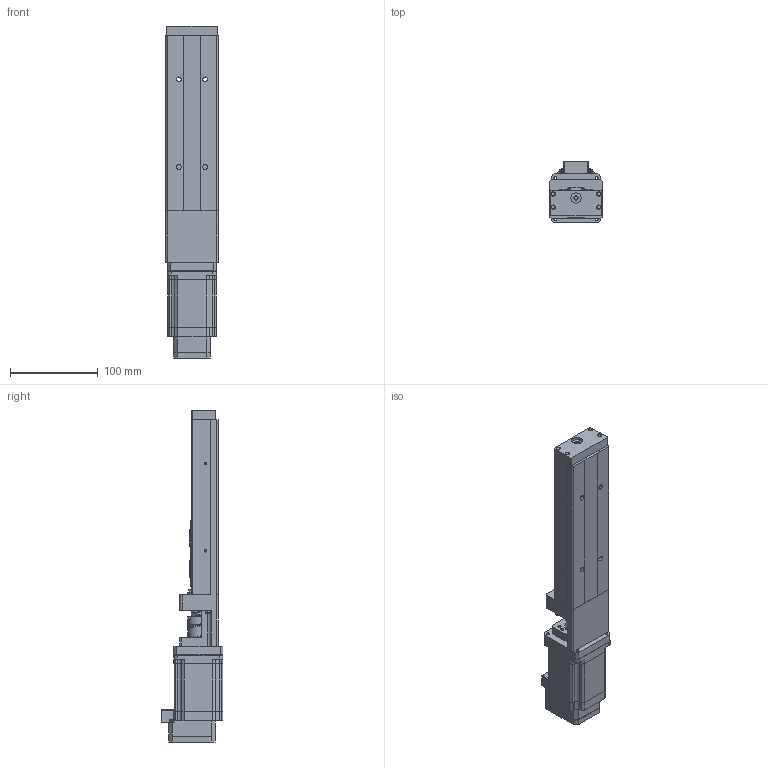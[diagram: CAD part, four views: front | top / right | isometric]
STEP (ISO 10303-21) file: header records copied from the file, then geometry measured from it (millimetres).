
FILE_DESCRIPTION (( 'STEP AP214' ), '1' );
FILE_NAME ('PA33-A-06-100-S-00A0-23L20-X.STEP', '2015-01-06T14:52:41', ( '' ), ( '' ), 'SwSTEP 2.0', 'SolidWorks 2015', '' );
FILE_SCHEMA (( 'AUTOMOTIVE_DESIGN' ));
Length unit declared in the file: millimetre
Products named in the file (5): CM1-X-23L20-NE-RENDER; PA33-A-06-100-S-00A0; RCLA25C-10-10; PA33-SPA33-PA30_to_NEMA23-Bracket-REV1; PA33-A-06-100-S-00A0-23L20-X
Assembly tree (4 placements, depth 2):
  PA33-A-06-100-S-00A0-23L20-X
    PA33-SPA33-PA30_to_NEMA23-Bracket-REV1
    RCLA25C-10-10
    PA33-A-06-100-S-00A0
    CM1-X-23L20-NE-RENDER
Bounding box: 60 x 70.81 x 379.3 mm (x, y, z)
Volume: 635811.3 mm3; surface area: 146630.1 mm2
Topology: 5 solids, 6 shells, 1731 faces, 4748 edges, 3070 vertices
Faces by surface type: plane 1025, cylinder 563, cone 107, torus 28, bspline 6, sphere 2
Entity records: 65143 total; most frequent: CARTESIAN_POINT 10460, ORIENTED_EDGE 9432, DIRECTION 9425, EDGE_CURVE 4716, LINE 3299, VECTOR 3299, VERTEX_POINT 3068, AXIS2_PLACEMENT_3D 3063
